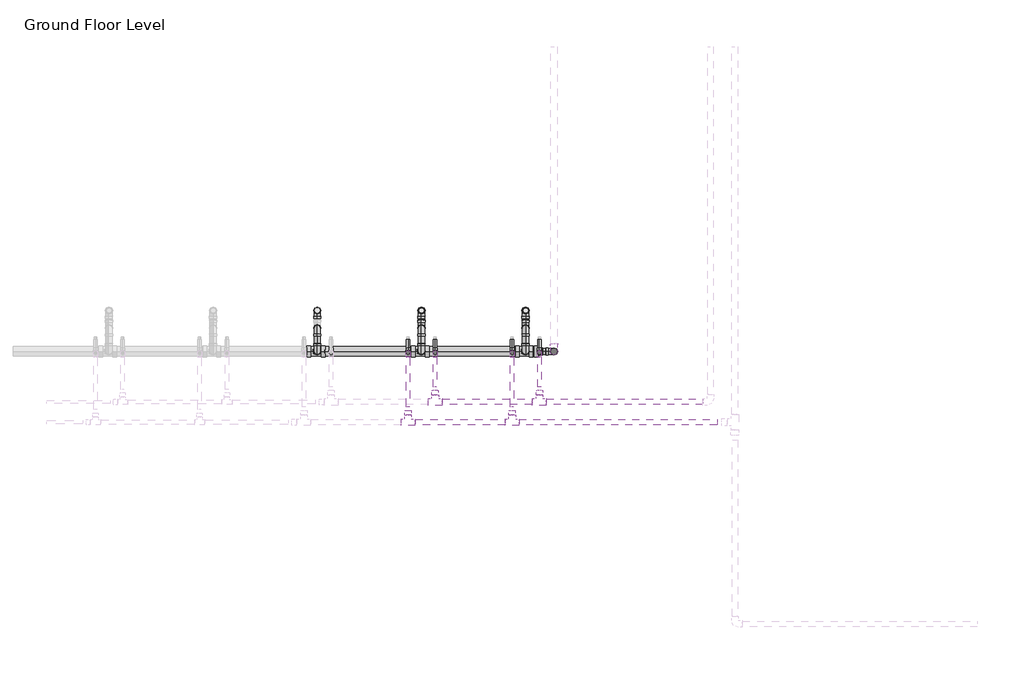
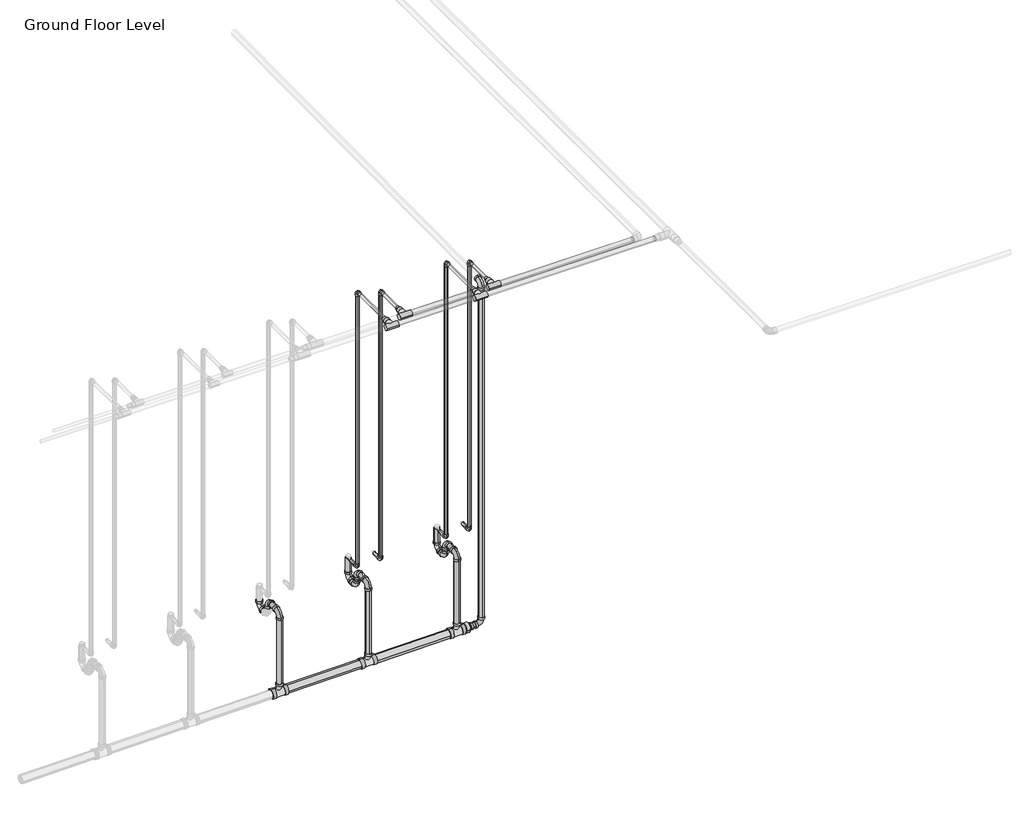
# One storey, part 42 of 75: 33 pipe fittings, 33 pipe segments.
"""IFC4 building model written with IfcOpenShell, lengths in millimetres."""

from ifc_helpers import new_model, si_unit, point, frame, frame_2d, origin, place, context, project, spatial, circle_curve, trimmed, segment, composite_curve, outline, extrude, transform, mapped, element, save
from components import m_bend_pvc_sch_40_dwv_standard_1e7bdcc1, m_bend_pvc_sch_40_dwv_standard_776e50c4, m_reducer_pvc_sch_40_dwv_standard_d6f2da47, m_tee_reducing_sanitary_pvc_sch_40_dwv_standard_21d2848c, standard_b266ab3f, standard_08ff6011, standard_83629b21

model = new_model("IFC4")

# Units and contexts
model_context = context("Model", 3, world=origin())
ifc_project = project(units=[si_unit("LENGTHUNIT", "METRE", prefix="MILLI")], contexts=[model_context])

# Site, building, storey
site = spatial("IfcSite", under=ifc_project)
building = spatial("IfcBuilding", under=site)
storey = spatial("IfcBuildingStorey", under=building, Name="Ground Floor Level", Elevation=900.0)

# Pipe fittings
placement = place(None, origin())
m_bend_pvc_sch_40_dwv_standard_shape = m_bend_pvc_sch_40_dwv_standard_1e7bdcc1(model_context)
element("IfcPipeFitting", 1, ObjectType="M_Bend - PVC - Sch 40 - DWV : Standard", at=placement, inside=storey, context=model_context, shape_type="MappedRepresentation", body=[
    mapped(m_bend_pvc_sch_40_dwv_standard_shape, transform((-17062.2847407, 9143.7835646, 1498.2), x_axis=(0.0, -0.9999500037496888, -0.00999950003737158), y_axis=(0.0, 0.00999950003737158, -0.9999500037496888), z_axis=(1.0, 0.0, 0.0))),
])
element("IfcPipeFitting", 2, ObjectType="M_Bend - PVC - Sch 40 - DWV : Standard", at=placement, inside=storey, context=model_context, shape_type="MappedRepresentation", body=[
    mapped(m_bend_pvc_sch_40_dwv_standard_shape, transform((-17062.4847207, 9458.7835646, 1360.0), x_axis=(0.0, 0.9999500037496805, 0.009999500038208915), y_axis=(0.0, -0.009999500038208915, 0.9999500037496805), z_axis=(1.0, 0.0, 0.0))),
])
element("IfcPipeFitting", 3, ObjectType="M_Bend - PVC - Sch 40 - DWV : Standard", at=placement, inside=storey, context=model_context, shape_type="MappedRepresentation", body=[
    mapped(m_bend_pvc_sch_40_dwv_standard_shape, transform((-17862.4847207, 9458.7835646, 1360.0), x_axis=(0.0, 0.9999500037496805, 0.009999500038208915), y_axis=(0.0, -0.009999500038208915, 0.9999500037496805), z_axis=(1.0, 0.0, 0.0))),
])
element("IfcPipeFitting", 4, ObjectType="M_Bend - PVC - Sch 40 - DWV : Standard", at=placement, inside=storey, context=model_context, shape_type="MappedRepresentation", body=[
    mapped(m_bend_pvc_sch_40_dwv_standard_shape, transform((-18662.4847207, 9458.7835646, 1360.0), x_axis=(0.0, 0.9999500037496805, 0.009999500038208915), y_axis=(0.0, -0.009999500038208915, 0.9999500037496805), z_axis=(1.0, 0.0, 0.0))),
])
element("IfcPipeFitting", 5, ObjectType="M_Bend - PVC - Sch 40 - DWV : Standard", at=placement, inside=storey, context=model_context, shape_type="MappedRepresentation", body=[
    mapped(m_bend_pvc_sch_40_dwv_standard_shape, transform((-17862.2847407, 9143.7835646, 1498.2), x_axis=(0.0, -0.9999500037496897, -0.00999950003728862), y_axis=(0.0, 0.00999950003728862, -0.9999500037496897), z_axis=(1.0, 0.0, 0.0))),
])
element("IfcPipeFitting", 6, ObjectType="M_Bend - PVC - Sch 40 - DWV : Standard", at=placement, inside=storey, context=model_context, shape_type="MappedRepresentation", body=[
    mapped(m_bend_pvc_sch_40_dwv_standard_shape, transform((-18662.2847407, 9143.7835646, 1498.2), x_axis=(0.0, -0.9999500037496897, -0.00999950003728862), y_axis=(0.0, 0.00999950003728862, -0.9999500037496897), z_axis=(1.0, 0.0, 0.0))),
])
element("IfcPipeFitting", 7, ObjectType="M_Bend - PVC - Sch 40 - DWV : Standard", at=placement, inside=storey, context=model_context, shape_type="MappedRepresentation", body=[
    mapped(m_bend_pvc_sch_40_dwv_standard_shape, transform((-16844.392952, 9143.7835646, 761.4231627), x_axis=(0.9999500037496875, 0.0, 0.009999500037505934), y_axis=(-0.009999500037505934, 0.0, 0.9999500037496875), z_axis=(0.0, -1.0, 0.0))),
])
element("IfcPipeFitting", 8, ObjectType="M_Bend - PVC - Sch 40 - DWV : Standard", at=placement, inside=storey, context=model_context, shape_type="MappedRepresentation", body=[
    mapped(m_bend_pvc_sch_40_dwv_standard_shape, transform((-16844.3158637, 9143.8485583, 4010.8006231), x_axis=(0.0, 0.0, 1.0), y_axis=(0.0, 1.0, 0.0), z_axis=(-1.0, 0.0, 0.0))),
])
m_bend_pvc_sch_40_dwv_standard_2_shape = m_bend_pvc_sch_40_dwv_standard_776e50c4(model_context)
element("IfcPipeFitting", 9, ObjectType="M_Bend - PVC - Sch 40 - DWV : Standard", at=placement, inside=storey, context=model_context, shape_type="MappedRepresentation", body=[
    mapped(m_bend_pvc_sch_40_dwv_standard_2_shape, transform((-17062.4847207, 9323.7835646, 1358.65), x_axis=(0.0, -0.9999500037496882, -0.009999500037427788), y_axis=(0.0, -0.009999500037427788, 0.9999500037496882), z_axis=(-1.0, 0.0, 0.0))),
])
element("IfcPipeFitting", 10, ObjectType="M_Bend - PVC - Sch 40 - DWV : Standard", at=placement, inside=storey, context=model_context, shape_type="MappedRepresentation", body=[
    mapped(m_bend_pvc_sch_40_dwv_standard_2_shape, transform((-17062.4847207, 9323.7835646, 1500.0), x_axis=(0.0, 0.0, 1.0), y_axis=(0.0, -1.0, 0.0), z_axis=(1.0, 0.0, 0.0))),
])
element("IfcPipeFitting", 11, ObjectType="M_Bend - PVC - Sch 40 - DWV : Standard", at=placement, inside=storey, context=model_context, shape_type="MappedRepresentation", body=[
    mapped(m_bend_pvc_sch_40_dwv_standard_2_shape, transform((-17862.4847207, 9323.7835646, 1358.65), x_axis=(0.0, -0.9999500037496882, -0.009999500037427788), y_axis=(0.0, -0.009999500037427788, 0.9999500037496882), z_axis=(-1.0, 0.0, 0.0))),
])
element("IfcPipeFitting", 12, ObjectType="M_Bend - PVC - Sch 40 - DWV : Standard", at=placement, inside=storey, context=model_context, shape_type="MappedRepresentation", body=[
    mapped(m_bend_pvc_sch_40_dwv_standard_2_shape, transform((-17862.4847207, 9323.7835646, 1500.0), x_axis=(0.0, 0.0, 1.0), y_axis=(0.0, -1.0, 0.0), z_axis=(1.0, 0.0, 0.0))),
])
element("IfcPipeFitting", 13, ObjectType="M_Bend - PVC - Sch 40 - DWV : Standard", at=placement, inside=storey, context=model_context, shape_type="MappedRepresentation", body=[
    mapped(m_bend_pvc_sch_40_dwv_standard_2_shape, transform((-18662.4847207, 9323.7835646, 1500.0), x_axis=(0.0, 0.0, 1.0), y_axis=(0.0, -1.0, 0.0), z_axis=(1.0, 0.0, 0.0))),
])
m_reducer_pvc_sch_40_dwv_standard_shape = m_reducer_pvc_sch_40_dwv_standard_d6f2da47(model_context)
element("IfcPipeFitting", 14, ObjectType="M_Reducer - PVC - Sch 40 - DWV : Standard", at=placement, inside=storey, context=model_context, shape_type="MappedRepresentation", body=[
    mapped(m_reducer_pvc_sch_40_dwv_standard_shape, transform((-16997.2385884, 9143.7835646, 759.8947064), x_axis=(0.999950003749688, 0.0, 0.009999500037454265), y_axis=(0.0, 1.0000000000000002, 0.0), z_axis=(-0.009999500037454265, 0.0, 0.999950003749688))),
])
m_tee_reducing_sanitary_pvc_sch_40_dwv_standard_shape = m_tee_reducing_sanitary_pvc_sch_40_dwv_standard_21d2848c(model_context)
element("IfcPipeFitting", 15, ObjectType="M_Tee Reducing Sanitary - PVC - Sch 40 - DWV : Standard", at=placement, inside=storey, context=model_context, shape_type="MappedRepresentation", body=[
    mapped(m_tee_reducing_sanitary_pvc_sch_40_dwv_standard_shape, transform((-17062.2892402, 9143.7835646, 759.2441999), x_axis=(0.9999500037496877, 0.0, 0.009999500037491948), y_axis=(0.009999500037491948, 0.0, -0.9999500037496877), z_axis=(0.0, 1.0, 0.0))),
])
element("IfcPipeFitting", 16, ObjectType="M_Tee Reducing Sanitary - PVC - Sch 40 - DWV : Standard", at=placement, inside=storey, context=model_context, shape_type="MappedRepresentation", body=[
    mapped(m_tee_reducing_sanitary_pvc_sch_40_dwv_standard_shape, transform((-17862.2892402, 9143.7835646, 751.2441999), x_axis=(0.9999500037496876, 0.0, 0.00999950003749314), y_axis=(0.00999950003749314, 0.0, -0.9999500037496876), z_axis=(0.0, 1.0, 0.0))),
])
element("IfcPipeFitting", 17, ObjectType="M_Tee Reducing Sanitary - PVC - Sch 40 - DWV : Standard", at=placement, inside=storey, context=model_context, shape_type="MappedRepresentation", body=[
    mapped(m_tee_reducing_sanitary_pvc_sch_40_dwv_standard_shape, transform((-18662.2892402, 9143.7835646, 743.2441999), x_axis=(0.9999500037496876, 0.0, 0.009999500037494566), y_axis=(0.009999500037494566, 0.0, -0.9999500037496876), z_axis=(0.0, 1.0, 0.0))),
])
standard_shape = standard_b266ab3f(model_context)
element("IfcPipeFitting", 18, ObjectType="M_Elbow - CPVC - Sch 40 : Standard", at=placement, inside=storey, context=model_context, shape_type="MappedRepresentation", body=[
    mapped(standard_shape, transform((-17756.7923674, 9135.2153534, 4250.0), x_axis=(0.0, 0.0, 1.0), y_axis=(0.0, -1.0, 0.0), z_axis=(1.0, 0.0, 0.0))),
])
element("IfcPipeFitting", 19, ObjectType="M_Elbow - CPVC - Sch 40 : Standard", at=placement, inside=storey, context=model_context, shape_type="MappedRepresentation", body=[
    mapped(standard_shape, transform((-16956.7923674, 9135.2153534, 4250.0), x_axis=(0.0, 0.0, 1.0), y_axis=(0.0, -1.0, 0.0), z_axis=(1.0, 0.0, 0.0))),
])
element("IfcPipeFitting", 20, ObjectType="M_Elbow - CPVC - Sch 40 : Standard", at=placement, inside=storey, context=model_context, shape_type="MappedRepresentation", body=[
    mapped(standard_shape, transform((-17965.4222086, 9135.2153534, 1690.0), x_axis=(0.0, 0.0, -1.0), y_axis=(0.0, 1.0, 0.0), z_axis=(1.0, 0.0, 0.0))),
])
element("IfcPipeFitting", 21, ObjectType="M_Elbow - CPVC - Sch 40 : Standard", at=placement, inside=storey, context=model_context, shape_type="MappedRepresentation", body=[
    mapped(standard_shape, transform((-17756.7923674, 9135.2153534, 1690.0), x_axis=(0.0, 0.0, -1.0), y_axis=(0.0, 1.0, 0.0), z_axis=(1.0, 0.0, 0.0))),
])
element("IfcPipeFitting", 22, ObjectType="M_Elbow - CPVC - Sch 40 : Standard", at=placement, inside=storey, context=model_context, shape_type="MappedRepresentation", body=[
    mapped(standard_shape, transform((-17165.4222086, 9135.2153534, 1690.0), x_axis=(0.0, 0.0, -1.0), y_axis=(-0.0014291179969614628, 0.999998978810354, 0.0), z_axis=(0.999998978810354, 0.0014291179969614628, 0.0))),
])
element("IfcPipeFitting", 23, ObjectType="M_Elbow - CPVC - Sch 40 : Standard", at=placement, inside=storey, context=model_context, shape_type="MappedRepresentation", body=[
    mapped(standard_shape, transform((-16956.7923674, 9135.2153534, 1690.0), x_axis=(0.0, 0.0, -1.0), y_axis=(-0.00142911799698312, 0.9999989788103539, 0.0), z_axis=(0.9999989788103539, 0.00142911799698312, 0.0))),
])
element("IfcPipeFitting", 24, ObjectType="M_Elbow - CPVC - Sch 40 : Standard", at=placement, inside=storey, context=model_context, shape_type="MappedRepresentation", body=[
    mapped(standard_shape, transform((-17165.4222086, 9135.2153534, 4315.0), x_axis=(0.0, 0.0, 1.0), y_axis=(0.0, -1.0, 0.0), z_axis=(1.0, 0.0, 0.0))),
])
element("IfcPipeFitting", 25, ObjectType="M_Elbow - CPVC - Sch 40 : Standard", at=placement, inside=storey, context=model_context, shape_type="MappedRepresentation", body=[
    mapped(standard_shape, transform((-17965.4222086, 9135.2153534, 4315.0), x_axis=(0.0, 0.0, 1.0), y_axis=(0.0, -1.0, 0.0), z_axis=(1.0, 0.0, 0.0))),
])
standard_2_shape = standard_08ff6011(model_context)
element("IfcPipeFitting", 26, ObjectType="M_Tee - CPVC - Sch 40 : Standard", at=placement, inside=storey, context=model_context, shape_type="MappedRepresentation", body=[
    mapped(standard_2_shape, transform((-17165.4222086, 8599.9071734, 4315.0), x_axis=(1.0, 0.0, 0.0), y_axis=(0.0, -1.0, 0.0), z_axis=(0.0, 0.0, -1.0))),
])
element("IfcPipeFitting", 27, ObjectType="M_Tee - CPVC - Sch 40 : Standard", at=placement, inside=storey, context=model_context, shape_type="MappedRepresentation", body=[
    mapped(standard_2_shape, transform((-17965.4222086, 8599.9071734, 4315.0), x_axis=(1.0, 0.0, 0.0), y_axis=(0.0, -1.0, 0.0), z_axis=(0.0, 0.0, -1.0))),
])
element("IfcPipeFitting", 28, ObjectType="M_Tee - CPVC - Sch 40 : Standard", at=placement, inside=storey, context=model_context, shape_type="MappedRepresentation", body=[
    mapped(standard_2_shape, transform((-17756.7923674, 8755.2153534, 4250.0), x_axis=(-1.0, 0.0, 0.0), y_axis=(0.0, -1.0, 0.0), z_axis=(0.0, 0.0, 1.0))),
])
element("IfcPipeFitting", 29, ObjectType="M_Tee - CPVC - Sch 40 : Standard", at=placement, inside=storey, context=model_context, shape_type="MappedRepresentation", body=[
    mapped(standard_2_shape, transform((-16956.7923674, 8755.2153534, 4250.0), x_axis=(-1.0, 0.0, 0.0), y_axis=(0.0, -1.0, 0.0), z_axis=(0.0, 0.0, 1.0))),
])
standard_3_shape = standard_83629b21(model_context)
element("IfcPipeFitting", 30, ObjectType="M_Coupling Reducing - CPVC - Sch 40 : Standard", at=placement, inside=storey, context=model_context, shape_type="MappedRepresentation", body=[
    mapped(standard_3_shape, transform((-17165.4222086, 8653.8821734, 4315.0), x_axis=(0.0, 1.0, 0.0), y_axis=(-1.0, 0.0, 0.0), z_axis=(0.0, 0.0, 1.0))),
])
element("IfcPipeFitting", 31, ObjectType="M_Coupling Reducing - CPVC - Sch 40 : Standard", at=placement, inside=storey, context=model_context, shape_type="MappedRepresentation", body=[
    mapped(standard_3_shape, transform((-17965.4222086, 8653.8821734, 4315.0), x_axis=(0.0, 1.0, 0.0), y_axis=(-1.0, 0.0, 0.0), z_axis=(0.0, 0.0, 1.0))),
])
element("IfcPipeFitting", 32, ObjectType="M_Coupling Reducing - CPVC - Sch 40 : Standard", at=placement, inside=storey, context=model_context, shape_type="MappedRepresentation", body=[
    mapped(standard_3_shape, transform((-17756.7923674, 8809.1903534, 4250.0), x_axis=(0.0, 1.0, 0.0), y_axis=(-1.0, 0.0, 0.0), z_axis=(0.0, 0.0, 1.0))),
])
element("IfcPipeFitting", 33, ObjectType="M_Coupling Reducing - CPVC - Sch 40 : Standard", at=placement, inside=storey, context=model_context, shape_type="MappedRepresentation", body=[
    mapped(standard_3_shape, transform((-16956.7923674, 8809.1903534, 4250.0), x_axis=(0.0, 1.0, 0.0), y_axis=(-1.0, 0.0, 0.0), z_axis=(0.0, 0.0, 1.0))),
])

# Pipe segments
element("IfcPipeSegment", 34, ObjectType="CPVC", at=placement, inside=storey, context=model_context, shape_type="SweptSolid", body=[
    extrude(outline(composite_curve([segment(trimmed(circle_curve(frame_2d((0.0, 13.335)), 13.335), [point((13.335, 13.335))], [point((0.0, 0.0))], False, "CARTESIAN"), True, "CONTINUOUS"), segment(trimmed(circle_curve(frame_2d((0.0, 13.335)), 13.335), [point((0.0, 0.0))], [point((-13.3350001, 13.335))], False, "CARTESIAN"), True, "CONTINUOUS"), segment(trimmed(circle_curve(frame_2d((0.0, 13.335)), 13.335), [point((-13.3350001, 13.335))], [point((0.0, 26.67))], False, "CARTESIAN"), True, "CONTINUOUS"), segment(trimmed(circle_curve(frame_2d((0.0, 13.335)), 13.335), [point((0.0, 26.67))], [point((13.335, 13.335))], False, "CARTESIAN"), True, "CONTINUOUS")], self_intersect=False)), frame((-17965.4222086, 9170.5404034, 1703.335), z_axis=(-0.0022096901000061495, 0.9999975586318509, 0.0), x_axis=(0.9999975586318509, 0.0022096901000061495, 0.0)), (0.0, 0.0, 1.0), 64.6751079),
])
element("IfcPipeSegment", 35, ObjectType="CPVC", at=placement, inside=storey, context=model_context, shape_type="SweptSolid", body=[
    extrude(outline(composite_curve([segment(trimmed(circle_curve(frame_2d((4315.0, -17965.4222086)), 13.335), [point((4315.0, -17978.7572086))], [point((4301.665, -17965.4222086))], False, "CARTESIAN"), True, "CONTINUOUS"), segment(trimmed(circle_curve(frame_2d((4315.0, -17965.4222086)), 13.335), [point((4301.665, -17965.4222086))], [point((4315.0, -17952.0872086))], False, "CARTESIAN"), True, "CONTINUOUS"), segment(trimmed(circle_curve(frame_2d((4315.0, -17965.4222086)), 13.335), [point((4315.0, -17952.0872086))], [point((4328.335, -17965.4222086))], False, "CARTESIAN"), True, "CONTINUOUS"), segment(trimmed(circle_curve(frame_2d((4315.0, -17965.4222086)), 13.335), [point((4328.335, -17965.4222086))], [point((4315.0, -17978.7572086))], False, "CARTESIAN"), True, "CONTINUOUS")], self_intersect=False)), frame((0.0, 8716.6990484, 0.0), z_axis=(0.0, 1.0, 0.0), x_axis=(0.0, 0.0, 1.0)), (0.0, 0.0, 1.0), 383.191255),
])
element("IfcPipeSegment", 36, ObjectType="CPVC", at=placement, inside=storey, context=model_context, shape_type="SweptSolid", body=[
    extrude(outline(composite_curve([segment(trimmed(circle_curve(frame_2d((-17965.4222086, 9135.2153534)), 13.335), [point((-17978.7572086, 9135.2153534))], [point((-17965.4222086, 9148.5503534))], False, "CARTESIAN"), True, "CONTINUOUS"), segment(trimmed(circle_curve(frame_2d((-17965.4222086, 9135.2153534)), 13.335), [point((-17965.4222086, 9148.5503534))], [point((-17952.0872086, 9135.2153534))], False, "CARTESIAN"), True, "CONTINUOUS"), segment(trimmed(circle_curve(frame_2d((-17965.4222086, 9135.2153534)), 13.335), [point((-17952.0872086, 9135.2153534))], [point((-17965.4222086, 9121.8803534))], False, "CARTESIAN"), True, "CONTINUOUS"), segment(trimmed(circle_curve(frame_2d((-17965.4222086, 9135.2153534)), 13.335), [point((-17965.4222086, 9121.8803534))], [point((-17978.7572086, 9135.2153534))], False, "CARTESIAN"), True, "CONTINUOUS")], self_intersect=False)), frame((0.0, 0.0, 1725.32505), z_axis=(0.0, 0.0, 1.0), x_axis=(1.0, 0.0, 0.0)), (0.0, 0.0, 1.0), 2554.3499),
])
element("IfcPipeSegment", 37, ObjectType="CPVC", at=placement, inside=storey, context=model_context, shape_type="SweptSolid", body=[
    extrude(outline(composite_curve([segment(trimmed(circle_curve(frame_2d((0.0, 13.335)), 13.335), [point((13.335, 13.335))], [point((0.0, 0.0))], False, "CARTESIAN"), True, "CONTINUOUS"), segment(trimmed(circle_curve(frame_2d((0.0, 13.335)), 13.335), [point((0.0, 0.0))], [point((-13.3350001, 13.335))], False, "CARTESIAN"), True, "CONTINUOUS"), segment(trimmed(circle_curve(frame_2d((0.0, 13.335)), 13.335), [point((-13.3350001, 13.335))], [point((0.0, 26.67))], False, "CARTESIAN"), True, "CONTINUOUS"), segment(trimmed(circle_curve(frame_2d((0.0, 13.335)), 13.335), [point((0.0, 26.67))], [point((13.335, 13.335))], False, "CARTESIAN"), True, "CONTINUOUS")], self_intersect=False)), frame((-17756.7923674, 9170.5404034, 1703.335), z_axis=(-0.002209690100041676, 0.9999975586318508, 0.0), x_axis=(0.9999975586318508, 0.002209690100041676, 0.0)), (0.0, 0.0, 1.0), 64.6751079),
])
element("IfcPipeSegment", 38, ObjectType="CPVC", at=placement, inside=storey, context=model_context, shape_type="SweptSolid", body=[
    extrude(outline(composite_curve([segment(trimmed(circle_curve(frame_2d((4250.0, -17756.7923674)), 13.335), [point((4250.0, -17770.1273674))], [point((4236.665, -17756.7923674))], False, "CARTESIAN"), True, "CONTINUOUS"), segment(trimmed(circle_curve(frame_2d((4250.0, -17756.7923674)), 13.335), [point((4236.665, -17756.7923674))], [point((4250.0, -17743.4573674))], False, "CARTESIAN"), True, "CONTINUOUS"), segment(trimmed(circle_curve(frame_2d((4250.0, -17756.7923674)), 13.335), [point((4250.0, -17743.4573674))], [point((4263.335, -17756.7923674))], False, "CARTESIAN"), True, "CONTINUOUS"), segment(trimmed(circle_curve(frame_2d((4250.0, -17756.7923674)), 13.335), [point((4263.335, -17756.7923674))], [point((4250.0, -17770.1273674))], False, "CARTESIAN"), True, "CONTINUOUS")], self_intersect=False)), frame((0.0, 8872.0072284, 0.0), z_axis=(0.0, 1.0, 0.0), x_axis=(0.0, 0.0, 1.0)), (0.0, 0.0, 1.0), 227.883075),
])
element("IfcPipeSegment", 39, ObjectType="CPVC", at=placement, inside=storey, context=model_context, shape_type="SweptSolid", body=[
    extrude(outline(composite_curve([segment(trimmed(circle_curve(frame_2d((-17756.7923674, 9135.2153534)), 13.335), [point((-17770.1273674, 9135.2153534))], [point((-17756.7923674, 9148.5503534))], False, "CARTESIAN"), True, "CONTINUOUS"), segment(trimmed(circle_curve(frame_2d((-17756.7923674, 9135.2153534)), 13.335), [point((-17756.7923674, 9148.5503534))], [point((-17743.4573674, 9135.2153534))], False, "CARTESIAN"), True, "CONTINUOUS"), segment(trimmed(circle_curve(frame_2d((-17756.7923674, 9135.2153534)), 13.335), [point((-17743.4573674, 9135.2153534))], [point((-17756.7923674, 9121.8803534))], False, "CARTESIAN"), True, "CONTINUOUS"), segment(trimmed(circle_curve(frame_2d((-17756.7923674, 9135.2153534)), 13.335), [point((-17756.7923674, 9121.8803534))], [point((-17770.1273674, 9135.2153534))], False, "CARTESIAN"), True, "CONTINUOUS")], self_intersect=False)), frame((0.0, 0.0, 1725.32505), z_axis=(0.0, 0.0, 1.0), x_axis=(1.0, 0.0, 0.0)), (0.0, 0.0, 1.0), 2489.3499),
])
element("IfcPipeSegment", 40, ObjectType="CPVC", at=placement, inside=storey, context=model_context, shape_type="SweptSolid", body=[
    extrude(outline(composite_curve([segment(trimmed(circle_curve(frame_2d((0.0, 13.335)), 13.335), [point((0.0, 26.67))], [point((13.335, 13.335))], False, "CARTESIAN"), True, "CONTINUOUS"), segment(trimmed(circle_curve(frame_2d((0.0, 13.335)), 13.335), [point((13.335, 13.335))], [point((0.0, 0.0))], False, "CARTESIAN"), True, "CONTINUOUS"), segment(trimmed(circle_curve(frame_2d((0.0, 13.335)), 13.335), [point((0.0, 0.0))], [point((-13.335, 13.335))], False, "CARTESIAN"), True, "CONTINUOUS"), segment(trimmed(circle_curve(frame_2d((0.0, 13.335)), 13.335), [point((-13.335, 13.335))], [point((0.0, 26.67))], False, "CARTESIAN"), True, "CONTINUOUS")], self_intersect=False)), frame((-17178.8076787, 9170.52131, 1690.0), z_axis=(-0.0014291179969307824, 0.999998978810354, 0.0), x_axis=(0.0, 0.0, 1.0)), (0.0, 0.0, 1.0), 64.6750521),
])
element("IfcPipeSegment", 41, ObjectType="CPVC", at=placement, inside=storey, context=model_context, shape_type="SweptSolid", body=[
    extrude(outline(composite_curve([segment(trimmed(circle_curve(frame_2d((4315.0, -17165.4222086)), 13.335), [point((4315.0, -17178.7572086))], [point((4301.665, -17165.4222086))], False, "CARTESIAN"), True, "CONTINUOUS"), segment(trimmed(circle_curve(frame_2d((4315.0, -17165.4222086)), 13.335), [point((4301.665, -17165.4222086))], [point((4315.0, -17152.0872086))], False, "CARTESIAN"), True, "CONTINUOUS"), segment(trimmed(circle_curve(frame_2d((4315.0, -17165.4222086)), 13.335), [point((4315.0, -17152.0872086))], [point((4328.335, -17165.4222086))], False, "CARTESIAN"), True, "CONTINUOUS"), segment(trimmed(circle_curve(frame_2d((4315.0, -17165.4222086)), 13.335), [point((4328.335, -17165.4222086))], [point((4315.0, -17178.7572086))], False, "CARTESIAN"), True, "CONTINUOUS")], self_intersect=False)), frame((0.0, 8716.6990484, 0.0), z_axis=(0.0, 1.0, 0.0), x_axis=(0.0, 0.0, 1.0)), (0.0, 0.0, 1.0), 383.191255),
])
element("IfcPipeSegment", 42, ObjectType="CPVC", at=placement, inside=storey, context=model_context, shape_type="SweptSolid", body=[
    extrude(outline(composite_curve([segment(trimmed(circle_curve(frame_2d((-17165.4222086, 9135.2153534)), 13.335), [point((-17178.7572086, 9135.2153534))], [point((-17165.4222086, 9148.5503534))], False, "CARTESIAN"), True, "CONTINUOUS"), segment(trimmed(circle_curve(frame_2d((-17165.4222086, 9135.2153534)), 13.335), [point((-17165.4222086, 9148.5503534))], [point((-17152.0872086, 9135.2153534))], False, "CARTESIAN"), True, "CONTINUOUS"), segment(trimmed(circle_curve(frame_2d((-17165.4222086, 9135.2153534)), 13.335), [point((-17152.0872086, 9135.2153534))], [point((-17165.4222086, 9121.8803534))], False, "CARTESIAN"), True, "CONTINUOUS"), segment(trimmed(circle_curve(frame_2d((-17165.4222086, 9135.2153534)), 13.335), [point((-17165.4222086, 9121.8803534))], [point((-17178.7572086, 9135.2153534))], False, "CARTESIAN"), True, "CONTINUOUS")], self_intersect=False)), frame((0.0, 0.0, 1725.32505), z_axis=(0.0, 0.0, 1.0), x_axis=(1.0, 0.0, 0.0)), (0.0, 0.0, 1.0), 2554.3499),
])
element("IfcPipeSegment", 43, ObjectType="CPVC", at=placement, inside=storey, context=model_context, shape_type="SweptSolid", body=[
    extrude(outline(composite_curve([segment(trimmed(circle_curve(frame_2d((0.0, 13.335)), 13.335), [point((0.0, 26.67))], [point((13.335, 13.335))], False, "CARTESIAN"), True, "CONTINUOUS"), segment(trimmed(circle_curve(frame_2d((0.0, 13.335)), 13.335), [point((13.335, 13.335))], [point((0.0, 0.0))], False, "CARTESIAN"), True, "CONTINUOUS"), segment(trimmed(circle_curve(frame_2d((0.0, 13.335)), 13.335), [point((0.0, 0.0))], [point((-13.335, 13.335))], False, "CARTESIAN"), True, "CONTINUOUS"), segment(trimmed(circle_curve(frame_2d((0.0, 13.335)), 13.335), [point((-13.335, 13.335))], [point((0.0, 26.67))], False, "CARTESIAN"), True, "CONTINUOUS")], self_intersect=False)), frame((-16970.1778375, 9170.52131, 1690.0), z_axis=(-0.0014291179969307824, 0.999998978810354, 0.0), x_axis=(0.0, 0.0, 1.0)), (0.0, 0.0, 1.0), 64.6750521),
])
element("IfcPipeSegment", 44, ObjectType="CPVC", at=placement, inside=storey, context=model_context, shape_type="SweptSolid", body=[
    extrude(outline(composite_curve([segment(trimmed(circle_curve(frame_2d((4250.0, -16956.7923674)), 13.335), [point((4250.0, -16970.1273674))], [point((4236.665, -16956.7923674))], False, "CARTESIAN"), True, "CONTINUOUS"), segment(trimmed(circle_curve(frame_2d((4250.0, -16956.7923674)), 13.335), [point((4236.665, -16956.7923674))], [point((4250.0, -16943.4573674))], False, "CARTESIAN"), True, "CONTINUOUS"), segment(trimmed(circle_curve(frame_2d((4250.0, -16956.7923674)), 13.335), [point((4250.0, -16943.4573674))], [point((4263.335, -16956.7923674))], False, "CARTESIAN"), True, "CONTINUOUS"), segment(trimmed(circle_curve(frame_2d((4250.0, -16956.7923674)), 13.335), [point((4263.335, -16956.7923674))], [point((4250.0, -16970.1273674))], False, "CARTESIAN"), True, "CONTINUOUS")], self_intersect=False)), frame((0.0, 8872.0072284, 0.0), z_axis=(0.0, 1.0, 0.0), x_axis=(0.0, 0.0, 1.0)), (0.0, 0.0, 1.0), 227.883075),
])
element("IfcPipeSegment", 45, ObjectType="CPVC", at=placement, inside=storey, context=model_context, shape_type="SweptSolid", body=[
    extrude(outline(composite_curve([segment(trimmed(circle_curve(frame_2d((-16956.7923674, 9135.2153534)), 13.335), [point((-16970.1273674, 9135.2153534))], [point((-16956.7923674, 9148.5503534))], False, "CARTESIAN"), True, "CONTINUOUS"), segment(trimmed(circle_curve(frame_2d((-16956.7923674, 9135.2153534)), 13.335), [point((-16956.7923674, 9148.5503534))], [point((-16943.4573674, 9135.2153534))], False, "CARTESIAN"), True, "CONTINUOUS"), segment(trimmed(circle_curve(frame_2d((-16956.7923674, 9135.2153534)), 13.335), [point((-16943.4573674, 9135.2153534))], [point((-16956.7923674, 9121.8803534))], False, "CARTESIAN"), True, "CONTINUOUS"), segment(trimmed(circle_curve(frame_2d((-16956.7923674, 9135.2153534)), 13.335), [point((-16956.7923674, 9121.8803534))], [point((-16970.1273674, 9135.2153534))], False, "CARTESIAN"), True, "CONTINUOUS")], self_intersect=False)), frame((0.0, 0.0, 1725.32505), z_axis=(0.0, 0.0, 1.0), x_axis=(1.0, 0.0, 0.0)), (0.0, 0.0, 1.0), 2489.3499),
])
element("IfcPipeSegment", 46, ObjectType="CPVC", at=placement, inside=storey, context=model_context, shape_type="SweptSolid", body=[
    extrude(outline(composite_curve([segment(trimmed(circle_curve(frame_2d((8599.9071734, 4315.0)), 21.082), [point((8620.9891734, 4315.0))], [point((8599.9071734, 4293.918))], False, "CARTESIAN"), True, "CONTINUOUS"), segment(trimmed(circle_curve(frame_2d((8599.9071734, 4315.0)), 21.082), [point((8599.9071734, 4293.918))], [point((8578.8251734, 4315.0))], False, "CARTESIAN"), True, "CONTINUOUS"), segment(trimmed(circle_curve(frame_2d((8599.9071734, 4315.0)), 21.082), [point((8578.8251734, 4315.0))], [point((8599.9071734, 4336.082))], False, "CARTESIAN"), True, "CONTINUOUS"), segment(trimmed(circle_curve(frame_2d((8599.9071734, 4315.0)), 21.082), [point((8599.9071734, 4336.082))], [point((8620.9891734, 4315.0))], False, "CARTESIAN"), True, "CONTINUOUS")], self_intersect=False)), frame((-17111.4472086, 0.0, 0.0), z_axis=(1.0, 0.0, 0.0), x_axis=(0.0, 1.0, 0.0)), (0.0, 0.0, 1.0), 1519.3174288),
])
element("IfcPipeSegment", 47, ObjectType="CPVC", at=placement, inside=storey, context=model_context, shape_type="SweptSolid", body=[
    extrude(outline(composite_curve([segment(trimmed(circle_curve(frame_2d((8599.9071734, 4315.0)), 21.082), [point((8620.9891734, 4315.0))], [point((8599.9071734, 4293.918))], False, "CARTESIAN"), True, "CONTINUOUS"), segment(trimmed(circle_curve(frame_2d((8599.9071734, 4315.0)), 21.082), [point((8599.9071734, 4293.918))], [point((8578.8251734, 4315.0))], False, "CARTESIAN"), True, "CONTINUOUS"), segment(trimmed(circle_curve(frame_2d((8599.9071734, 4315.0)), 21.082), [point((8578.8251734, 4315.0))], [point((8599.9071734, 4336.082))], False, "CARTESIAN"), True, "CONTINUOUS"), segment(trimmed(circle_curve(frame_2d((8599.9071734, 4315.0)), 21.082), [point((8599.9071734, 4336.082))], [point((8620.9891734, 4315.0))], False, "CARTESIAN"), True, "CONTINUOUS")], self_intersect=False)), frame((-17911.4472086, 0.0, 0.0), z_axis=(1.0, 0.0, 0.0), x_axis=(0.0, 1.0, 0.0)), (0.0, 0.0, 1.0), 692.05),
])
element("IfcPipeSegment", 48, ObjectType="CPVC", at=placement, inside=storey, context=model_context, shape_type="SweptSolid", body=[
    extrude(outline(composite_curve([segment(trimmed(circle_curve(frame_2d((8755.2153534, 4250.0)), 21.082), [point((8734.1333534, 4250.0))], [point((8755.2153534, 4271.082))], False, "CARTESIAN"), True, "CONTINUOUS"), segment(trimmed(circle_curve(frame_2d((8755.2153534, 4250.0)), 21.082), [point((8755.2153534, 4271.082))], [point((8776.2973534, 4250.0))], False, "CARTESIAN"), True, "CONTINUOUS"), segment(trimmed(circle_curve(frame_2d((8755.2153534, 4250.0)), 21.082), [point((8776.2973534, 4250.0))], [point((8755.2153534, 4228.918))], False, "CARTESIAN"), True, "CONTINUOUS"), segment(trimmed(circle_curve(frame_2d((8755.2153534, 4250.0)), 21.082), [point((8755.2153534, 4228.918))], [point((8734.1333534, 4250.0))], False, "CARTESIAN"), True, "CONTINUOUS")], self_intersect=False)), frame((-16902.8173674, 0.0, 0.0), z_axis=(1.0, 0.0, 0.0), x_axis=(0.0, 1.0, 0.0)), (0.0, 0.0, 1.0), 1202.05625),
])
element("IfcPipeSegment", 49, ObjectType="CPVC", at=placement, inside=storey, context=model_context, shape_type="SweptSolid", body=[
    extrude(outline(composite_curve([segment(trimmed(circle_curve(frame_2d((8755.2153534, 4250.0)), 21.082), [point((8734.1333534, 4250.0))], [point((8755.2153534, 4271.082))], False, "CARTESIAN"), True, "CONTINUOUS"), segment(trimmed(circle_curve(frame_2d((8755.2153534, 4250.0)), 21.082), [point((8755.2153534, 4271.082))], [point((8776.2973534, 4250.0))], False, "CARTESIAN"), True, "CONTINUOUS"), segment(trimmed(circle_curve(frame_2d((8755.2153534, 4250.0)), 21.082), [point((8776.2973534, 4250.0))], [point((8755.2153534, 4228.918))], False, "CARTESIAN"), True, "CONTINUOUS"), segment(trimmed(circle_curve(frame_2d((8755.2153534, 4250.0)), 21.082), [point((8755.2153534, 4228.918))], [point((8734.1333534, 4250.0))], False, "CARTESIAN"), True, "CONTINUOUS")], self_intersect=False)), frame((-17702.8173674, 0.0, 0.0), z_axis=(1.0, 0.0, 0.0), x_axis=(0.0, 1.0, 0.0)), (0.0, 0.0, 1.0), 692.05),
])
element("IfcPipeSegment", 50, ObjectType="PVC - DWV", at=placement, inside=storey, context=model_context, shape_type="SweptSolid", body=[
    extrude(outline(composite_curve([segment(trimmed(circle_curve(frame_2d((-17062.4847207, 9458.7835646)), 24.13), [point((-17086.6147207, 9458.7835646))], [point((-17062.4847207, 9482.9135646))], False, "CARTESIAN"), True, "CONTINUOUS"), segment(trimmed(circle_curve(frame_2d((-17062.4847207, 9458.7835646)), 24.13), [point((-17062.4847207, 9482.9135646))], [point((-17038.3547207, 9458.7835646))], False, "CARTESIAN"), True, "CONTINUOUS"), segment(trimmed(circle_curve(frame_2d((-17062.4847207, 9458.7835646)), 24.13), [point((-17038.3547207, 9458.7835646))], [point((-17062.4847207, 9434.6535646))], False, "CARTESIAN"), True, "CONTINUOUS"), segment(trimmed(circle_curve(frame_2d((-17062.4847207, 9458.7835646)), 24.13), [point((-17062.4847207, 9434.6535646))], [point((-17086.6147207, 9458.7835646))], False, "CARTESIAN"), True, "CONTINUOUS")], self_intersect=False)), frame((0.0, 0.0, 1421.8998), z_axis=(0.0, 0.0, 1.0), x_axis=(1.0, 0.0, 0.0)), (0.0, 0.0, 1.0), 128.1002),
])
element("IfcPipeSegment", 51, ObjectType="PVC - DWV", at=placement, inside=storey, context=model_context, shape_type="SweptSolid", body=[
    extrude(outline(composite_curve([segment(trimmed(circle_curve(frame_2d((0.0, -24.13)), 24.13), [point((-24.13, -24.13))], [point((0.0, 0.0))], False, "CARTESIAN"), True, "CONTINUOUS"), segment(trimmed(circle_curve(frame_2d((0.0, -24.13)), 24.13), [point((0.0, 0.0))], [point((24.13, -24.13))], False, "CARTESIAN"), True, "CONTINUOUS"), segment(trimmed(circle_curve(frame_2d((0.0, -24.13)), 24.13), [point((24.13, -24.13))], [point((0.0, -48.2599999))], False, "CARTESIAN"), True, "CONTINUOUS"), segment(trimmed(circle_curve(frame_2d((0.0, -24.13)), 24.13), [point((0.0, -48.2599999))], [point((-24.13, -24.13))], False, "CARTESIAN"), True, "CONTINUOUS")], self_intersect=False)), frame((-17062.4847207, 9385.9215577, 1335.1401735), z_axis=(0.0, 0.9999500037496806, 0.009999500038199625), x_axis=(1.0, 0.0, 0.0)), (0.0, 0.0, 1.0), 11.2071498),
])
element("IfcPipeSegment", 52, ObjectType="PVC - DWV", at=placement, inside=storey, context=model_context, shape_type="SweptSolid", body=[
    extrude(outline(composite_curve([segment(trimmed(circle_curve(frame_2d((-17062.4847207, 9323.7835646)), 24.13), [point((-17086.6147207, 9323.7835646))], [point((-17062.4847207, 9347.9135646))], False, "CARTESIAN"), True, "CONTINUOUS"), segment(trimmed(circle_curve(frame_2d((-17062.4847207, 9323.7835646)), 24.13), [point((-17062.4847207, 9347.9135646))], [point((-17038.3547207, 9323.7835646))], False, "CARTESIAN"), True, "CONTINUOUS"), segment(trimmed(circle_curve(frame_2d((-17062.4847207, 9323.7835646)), 24.13), [point((-17038.3547207, 9323.7835646))], [point((-17062.4847207, 9299.6535646))], False, "CARTESIAN"), True, "CONTINUOUS"), segment(trimmed(circle_curve(frame_2d((-17062.4847207, 9323.7835646)), 24.13), [point((-17062.4847207, 9299.6535646))], [point((-17086.6147207, 9323.7835646))], False, "CARTESIAN"), True, "CONTINUOUS")], self_intersect=False)), frame((0.0, 0.0, 1420.5498), z_axis=(0.0, 0.0, 1.0), x_axis=(1.0, 0.0, 0.0)), (0.0, 0.0, 1.0), 17.5504),
])
element("IfcPipeSegment", 53, ObjectType="PVC - DWV", at=placement, inside=storey, context=model_context, shape_type="SweptSolid", body=[
    extrude(outline(composite_curve([segment(trimmed(circle_curve(frame_2d((0.0, -24.13)), 24.13), [point((-24.13, -24.13))], [point((0.0, 0.0))], False, "CARTESIAN"), True, "CONTINUOUS"), segment(trimmed(circle_curve(frame_2d((0.0, -24.13)), 24.13), [point((0.0, 0.0))], [point((24.13, -24.13))], False, "CARTESIAN"), True, "CONTINUOUS"), segment(trimmed(circle_curve(frame_2d((0.0, -24.13)), 24.13), [point((24.13, -24.13))], [point((0.0, -48.2599999))], False, "CARTESIAN"), True, "CONTINUOUS"), segment(trimmed(circle_curve(frame_2d((0.0, -24.13)), 24.13), [point((0.0, -48.2599999))], [point((-24.13, -24.13))], False, "CARTESIAN"), True, "CONTINUOUS")], self_intersect=False)), frame((-17062.2847407, 9205.9215577, 1474.6901735), z_axis=(0.0, 0.9999500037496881, 0.009999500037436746), x_axis=(1.0, 0.0, 0.0)), (0.0, 0.0, 1.0), 56.2093998),
])
element("IfcPipeSegment", 54, ObjectType="PVC - DWV", at=placement, inside=storey, context=model_context, shape_type="SweptSolid", body=[
    extrude(outline(composite_curve([segment(trimmed(circle_curve(frame_2d((0.0, -24.13)), 24.13), [point((-24.13, -24.13))], [point((0.0, 0.0))], False, "CARTESIAN"), True, "CONTINUOUS"), segment(trimmed(circle_curve(frame_2d((0.0, -24.13)), 24.13), [point((0.0, 0.0))], [point((24.13, -24.13))], False, "CARTESIAN"), True, "CONTINUOUS"), segment(trimmed(circle_curve(frame_2d((0.0, -24.13)), 24.13), [point((24.13, -24.13))], [point((0.0, -48.26))], False, "CARTESIAN"), True, "CONTINUOUS"), segment(trimmed(circle_curve(frame_2d((0.0, -24.13)), 24.13), [point((0.0, -48.26))], [point((-24.13, -24.13))], False, "CARTESIAN"), True, "CONTINUOUS")], self_intersect=False)), frame((-17062.2892402, 9119.6535646, 840.0916561), z_axis=(7.546939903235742e-06, 0.0, 0.9999999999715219), x_axis=(-0.9999999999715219, 0.0, 7.546939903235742e-06)), (0.0, 0.0, 1.0), 596.2085439),
])
element("IfcPipeSegment", 55, ObjectType="PVC - DWV", at=placement, inside=storey, context=model_context, shape_type="SweptSolid", body=[
    extrude(outline(composite_curve([segment(trimmed(circle_curve(frame_2d((-17862.4847207, 9458.7835646)), 24.13), [point((-17886.6147207, 9458.7835646))], [point((-17862.4847207, 9482.9135646))], False, "CARTESIAN"), True, "CONTINUOUS"), segment(trimmed(circle_curve(frame_2d((-17862.4847207, 9458.7835646)), 24.13), [point((-17862.4847207, 9482.9135646))], [point((-17838.3547207, 9458.7835646))], False, "CARTESIAN"), True, "CONTINUOUS"), segment(trimmed(circle_curve(frame_2d((-17862.4847207, 9458.7835646)), 24.13), [point((-17838.3547207, 9458.7835646))], [point((-17862.4847207, 9434.6535646))], False, "CARTESIAN"), True, "CONTINUOUS"), segment(trimmed(circle_curve(frame_2d((-17862.4847207, 9458.7835646)), 24.13), [point((-17862.4847207, 9434.6535646))], [point((-17886.6147207, 9458.7835646))], False, "CARTESIAN"), True, "CONTINUOUS")], self_intersect=False)), frame((0.0, 0.0, 1421.8998), z_axis=(0.0, 0.0, 1.0), x_axis=(1.0, 0.0, 0.0)), (0.0, 0.0, 1.0), 128.1002),
])
element("IfcPipeSegment", 56, ObjectType="PVC - DWV", at=placement, inside=storey, context=model_context, shape_type="SweptSolid", body=[
    extrude(outline(composite_curve([segment(trimmed(circle_curve(frame_2d((0.0, -24.13)), 24.13), [point((-24.13, -24.13))], [point((0.0, 0.0))], False, "CARTESIAN"), True, "CONTINUOUS"), segment(trimmed(circle_curve(frame_2d((0.0, -24.13)), 24.13), [point((0.0, 0.0))], [point((24.13, -24.13))], False, "CARTESIAN"), True, "CONTINUOUS"), segment(trimmed(circle_curve(frame_2d((0.0, -24.13)), 24.13), [point((24.13, -24.13))], [point((0.0, -48.2599999))], False, "CARTESIAN"), True, "CONTINUOUS"), segment(trimmed(circle_curve(frame_2d((0.0, -24.13)), 24.13), [point((0.0, -48.2599999))], [point((-24.13, -24.13))], False, "CARTESIAN"), True, "CONTINUOUS")], self_intersect=False)), frame((-17862.4847207, 9385.9215577, 1335.1401735), z_axis=(0.0, 0.9999500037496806, 0.009999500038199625), x_axis=(1.0, 0.0, 0.0)), (0.0, 0.0, 1.0), 11.2071498),
])
element("IfcPipeSegment", 57, ObjectType="PVC - DWV", at=placement, inside=storey, context=model_context, shape_type="SweptSolid", body=[
    extrude(outline(composite_curve([segment(trimmed(circle_curve(frame_2d((-17862.4847207, 9323.7835646)), 24.13), [point((-17886.6147207, 9323.7835646))], [point((-17862.4847207, 9347.9135646))], False, "CARTESIAN"), True, "CONTINUOUS"), segment(trimmed(circle_curve(frame_2d((-17862.4847207, 9323.7835646)), 24.13), [point((-17862.4847207, 9347.9135646))], [point((-17838.3547207, 9323.7835646))], False, "CARTESIAN"), True, "CONTINUOUS"), segment(trimmed(circle_curve(frame_2d((-17862.4847207, 9323.7835646)), 24.13), [point((-17838.3547207, 9323.7835646))], [point((-17862.4847207, 9299.6535646))], False, "CARTESIAN"), True, "CONTINUOUS"), segment(trimmed(circle_curve(frame_2d((-17862.4847207, 9323.7835646)), 24.13), [point((-17862.4847207, 9299.6535646))], [point((-17886.6147207, 9323.7835646))], False, "CARTESIAN"), True, "CONTINUOUS")], self_intersect=False)), frame((0.0, 0.0, 1420.5498), z_axis=(0.0, 0.0, 1.0), x_axis=(1.0, 0.0, 0.0)), (0.0, 0.0, 1.0), 17.5504),
])
element("IfcPipeSegment", 58, ObjectType="PVC - DWV", at=placement, inside=storey, context=model_context, shape_type="SweptSolid", body=[
    extrude(outline(composite_curve([segment(trimmed(circle_curve(frame_2d((0.0, -24.13)), 24.13), [point((-24.13, -24.13))], [point((0.0, 0.0))], False, "CARTESIAN"), True, "CONTINUOUS"), segment(trimmed(circle_curve(frame_2d((0.0, -24.13)), 24.13), [point((0.0, 0.0))], [point((24.13, -24.13))], False, "CARTESIAN"), True, "CONTINUOUS"), segment(trimmed(circle_curve(frame_2d((0.0, -24.13)), 24.13), [point((24.13, -24.13))], [point((0.0, -48.2599999))], False, "CARTESIAN"), True, "CONTINUOUS"), segment(trimmed(circle_curve(frame_2d((0.0, -24.13)), 24.13), [point((0.0, -48.2599999))], [point((-24.13, -24.13))], False, "CARTESIAN"), True, "CONTINUOUS")], self_intersect=False)), frame((-17862.2847407, 9205.9215577, 1474.6901735), z_axis=(0.0, 0.9999500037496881, 0.009999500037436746), x_axis=(1.0, 0.0, 0.0)), (0.0, 0.0, 1.0), 56.2093998),
])
element("IfcPipeSegment", 59, ObjectType="PVC - DWV", at=placement, inside=storey, context=model_context, shape_type="SweptSolid", body=[
    extrude(outline(composite_curve([segment(trimmed(circle_curve(frame_2d((0.0, 24.13)), 24.13), [point((-24.13, 24.13))], [point((0.0, 48.26))], False, "CARTESIAN"), True, "CONTINUOUS"), segment(trimmed(circle_curve(frame_2d((0.0, 24.13)), 24.13), [point((0.0, 48.26))], [point((24.13, 24.13))], False, "CARTESIAN"), True, "CONTINUOUS"), segment(trimmed(circle_curve(frame_2d((0.0, 24.13)), 24.13), [point((24.13, 24.13))], [point((0.0, 0.0))], False, "CARTESIAN"), True, "CONTINUOUS"), segment(trimmed(circle_curve(frame_2d((0.0, 24.13)), 24.13), [point((0.0, 0.0))], [point((-24.13, 24.13))], False, "CARTESIAN"), True, "CONTINUOUS")], self_intersect=False)), frame((-17862.2892402, 9119.6535646, 832.0916561), z_axis=(7.447014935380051e-06, 0.0, 0.999999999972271), x_axis=(0.999999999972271, 0.0, -7.447014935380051e-06)), (0.0, 0.0, 1.0), 604.2085439),
])
element("IfcPipeSegment", 60, ObjectType="PVC - DWV", at=placement, inside=storey, context=model_context, shape_type="SweptSolid", body=[
    extrude(outline(composite_curve([segment(trimmed(circle_curve(frame_2d((0.0, -24.13)), 24.13), [point((-24.13, -24.13))], [point((0.0, 0.0))], False, "CARTESIAN"), True, "CONTINUOUS"), segment(trimmed(circle_curve(frame_2d((0.0, -24.13)), 24.13), [point((0.0, 0.0))], [point((24.13, -24.13))], False, "CARTESIAN"), True, "CONTINUOUS"), segment(trimmed(circle_curve(frame_2d((0.0, -24.13)), 24.13), [point((24.13, -24.13))], [point((0.0, -48.2599999))], False, "CARTESIAN"), True, "CONTINUOUS"), segment(trimmed(circle_curve(frame_2d((0.0, -24.13)), 24.13), [point((0.0, -48.2599999))], [point((-24.13, -24.13))], False, "CARTESIAN"), True, "CONTINUOUS")], self_intersect=False)), frame((-18662.2847407, 9205.9215577, 1474.6901735), z_axis=(0.0, 0.9999500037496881, 0.009999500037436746), x_axis=(1.0, 0.0, 0.0)), (0.0, 0.0, 1.0), 56.2093998),
])
element("IfcPipeSegment", 61, ObjectType="PVC - DWV", at=placement, inside=storey, context=model_context, shape_type="SweptSolid", body=[
    extrude(outline(composite_curve([segment(trimmed(circle_curve(frame_2d((0.0, 24.13)), 24.13), [point((-24.13, 24.13))], [point((0.0, 48.26))], False, "CARTESIAN"), True, "CONTINUOUS"), segment(trimmed(circle_curve(frame_2d((0.0, 24.13)), 24.13), [point((0.0, 48.26))], [point((24.13, 24.13))], False, "CARTESIAN"), True, "CONTINUOUS"), segment(trimmed(circle_curve(frame_2d((0.0, 24.13)), 24.13), [point((24.13, 24.13))], [point((0.0, 0.0))], False, "CARTESIAN"), True, "CONTINUOUS"), segment(trimmed(circle_curve(frame_2d((0.0, 24.13)), 24.13), [point((0.0, 0.0))], [point((-24.13, 24.13))], False, "CARTESIAN"), True, "CONTINUOUS")], self_intersect=False)), frame((-18662.2892402, 9119.6535646, 824.0916561), z_axis=(7.349701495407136e-06, 0.0, 0.9999999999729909), x_axis=(0.9999999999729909, 0.0, -7.349701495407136e-06)), (0.0, 0.0, 1.0), 612.2085439),
])
element("IfcPipeSegment", 62, ObjectType="PVC - DWV", at=placement, inside=storey, context=model_context, shape_type="SweptSolid", body=[
    extrude(outline(composite_curve([segment(trimmed(circle_curve(frame_2d((0.0, -36.5125)), 36.5125), [point((0.0, 0.0))], [point((36.5125, -36.5125))], False, "CARTESIAN"), True, "CONTINUOUS"), segment(trimmed(circle_curve(frame_2d((0.0, -36.5125)), 36.5125), [point((36.5125, -36.5125))], [point((0.0, -73.025))], False, "CARTESIAN"), True, "CONTINUOUS"), segment(trimmed(circle_curve(frame_2d((0.0, -36.5125)), 36.5125), [point((0.0, -73.025))], [point((-36.5125001, -36.5125))], False, "CARTESIAN"), True, "CONTINUOUS"), segment(trimmed(circle_curve(frame_2d((0.0, -36.5125)), 36.5125), [point((-36.5125001, -36.5125))], [point((0.0, 0.0))], False, "CARTESIAN"), True, "CONTINUOUS")], self_intersect=False)), frame((-17802.806471, 9180.2960646, 751.8390275), z_axis=(0.9999500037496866, 0.0, 0.00999950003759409), x_axis=(0.00999950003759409, 0.0, -0.9999500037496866)), (0.0, 0.0, 1.0), 661.4911369),
])
element("IfcPipeSegment", 63, ObjectType="PVC - DWV", at=placement, inside=storey, context=model_context, shape_type="SweptSolid", body=[
    extrude(outline(composite_curve([segment(trimmed(circle_curve(frame_2d((0.0, -36.5125)), 36.5125), [point((0.0, 0.0))], [point((36.5125, -36.5125))], False, "CARTESIAN"), True, "CONTINUOUS"), segment(trimmed(circle_curve(frame_2d((0.0, -36.5125)), 36.5125), [point((36.5125, -36.5125))], [point((0.0, -73.025))], False, "CARTESIAN"), True, "CONTINUOUS"), segment(trimmed(circle_curve(frame_2d((0.0, -36.5125)), 36.5125), [point((0.0, -73.025))], [point((-36.5125001, -36.5125))], False, "CARTESIAN"), True, "CONTINUOUS"), segment(trimmed(circle_curve(frame_2d((0.0, -36.5125)), 36.5125), [point((-36.5125001, -36.5125))], [point((0.0, 0.0))], False, "CARTESIAN"), True, "CONTINUOUS")], self_intersect=False)), frame((-18602.806471, 9180.2960646, 743.8390275), z_axis=(0.9999500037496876, 0.0, 0.009999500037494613), x_axis=(0.009999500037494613, 0.0, -0.9999500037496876)), (0.0, 0.0, 1.0), 661.4911369),
])
element("IfcPipeSegment", 64, ObjectType="PVC - DWV", at=placement, inside=storey, context=model_context, shape_type="SweptSolid", body=[
    extrude(outline(composite_curve([segment(trimmed(circle_curve(frame_2d((0.0, 36.5125)), 36.5125), [point((0.0, 0.0))], [point((-36.5125001, 36.5125))], False, "CARTESIAN"), True, "CONTINUOUS"), segment(trimmed(circle_curve(frame_2d((0.0, 36.5125)), 36.5125), [point((-36.5125001, 36.5125))], [point((0.0, 73.025))], False, "CARTESIAN"), True, "CONTINUOUS"), segment(trimmed(circle_curve(frame_2d((0.0, 36.5125)), 36.5125), [point((0.0, 73.025))], [point((36.5125, 36.5125))], False, "CARTESIAN"), True, "CONTINUOUS"), segment(trimmed(circle_curve(frame_2d((0.0, 36.5125)), 36.5125), [point((36.5125, 36.5125))], [point((0.0, 0.0))], False, "CARTESIAN"), True, "CONTINUOUS")], self_intersect=False)), frame((-17002.806471, 9107.2710646, 759.8390275), z_axis=(0.9999500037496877, 0.0, 0.009999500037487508), x_axis=(0.009999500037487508, 0.0, -0.9999500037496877)), (0.0, 0.0, 1.0), 5.5681609),
])
element("IfcPipeSegment", 65, ObjectType="PVC - DWV", at=placement, inside=storey, context=model_context, shape_type="SweptSolid", body=[
    extrude(outline(composite_curve([segment(trimmed(circle_curve(frame_2d((0.0, 24.13)), 24.13), [point((0.0, 0.0))], [point((-24.13, 24.13))], False, "CARTESIAN"), True, "CONTINUOUS"), segment(trimmed(circle_curve(frame_2d((0.0, 24.13)), 24.13), [point((-24.13, 24.13))], [point((0.0, 48.26))], False, "CARTESIAN"), True, "CONTINUOUS"), segment(trimmed(circle_curve(frame_2d((0.0, 24.13)), 24.13), [point((0.0, 48.26))], [point((24.13, 24.13))], False, "CARTESIAN"), True, "CONTINUOUS"), segment(trimmed(circle_curve(frame_2d((0.0, 24.13)), 24.13), [point((24.13, 24.13))], [point((0.0, 0.0))], False, "CARTESIAN"), True, "CONTINUOUS")], self_intersect=False)), frame((-16929.7958667, 9119.6535646, 760.5691336), z_axis=(0.9999500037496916, 0.0, 0.00999950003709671), x_axis=(0.00999950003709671, 0.0, -0.9999500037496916)), (0.0, 0.0, 1.0), 23.5073848),
])
element("IfcPipeSegment", 66, ObjectType="PVC - DWV", at=placement, inside=storey, context=model_context, shape_type="SweptSolid", body=[
    extrude(outline(composite_curve([segment(trimmed(circle_curve(frame_2d((0.0, 24.13)), 24.13), [point((-24.13, 24.13))], [point((0.0, 48.26))], False, "CARTESIAN"), True, "CONTINUOUS"), segment(trimmed(circle_curve(frame_2d((0.0, 24.13)), 24.13), [point((0.0, 48.26))], [point((24.13, 24.13))], False, "CARTESIAN"), True, "CONTINUOUS"), segment(trimmed(circle_curve(frame_2d((0.0, 24.13)), 24.13), [point((24.13, 24.13))], [point((0.0, 0.0))], False, "CARTESIAN"), True, "CONTINUOUS"), segment(trimmed(circle_curve(frame_2d((0.0, 24.13)), 24.13), [point((0.0, 0.0))], [point((-24.13, 24.13))], False, "CARTESIAN"), True, "CONTINUOUS")], self_intersect=False)), frame((-16844.2969712, 9119.7374489, 823.3228169), z_axis=(-6.044465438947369e-06, -6.043861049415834e-06, 0.9999999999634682), x_axis=(0.9999999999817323, -3.6532554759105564e-11, 6.044465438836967e-06)), (0.0, 0.0, 1.0), 3125.5778605),
])

save(model, "model.ifc")
